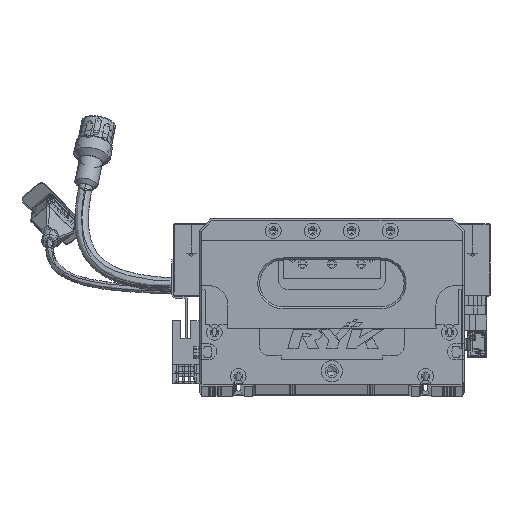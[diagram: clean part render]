
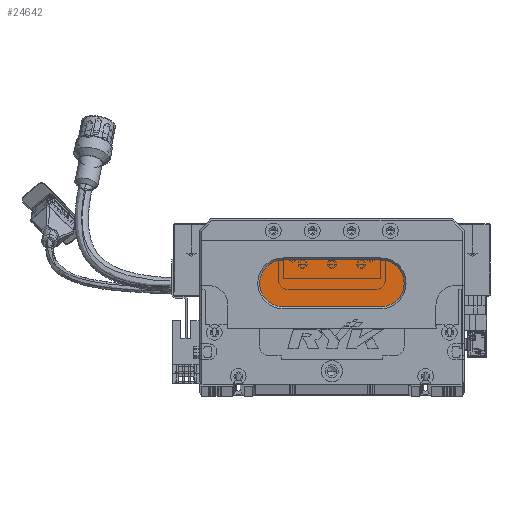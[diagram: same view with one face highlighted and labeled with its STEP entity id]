
A CAD part, top view. The second image highlights one B-rep face of the part: STEP entity #24642.
In plain terms, the highlighted planar face has unit normal (0, 0, 1) as drawn and (0, 0, -1) by its records, which use the part's own axes.
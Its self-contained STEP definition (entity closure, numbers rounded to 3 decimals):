
#1421 = CARTESIAN_POINT ( 'NONE',  ( 93., 40., 13. ) ) ;
#1837 = CARTESIAN_POINT ( 'NONE',  ( 31., 52., 13. ) ) ;
#3142 = LINE ( 'NONE', #85610, #92176 ) ;
#4855 = CIRCLE ( 'NONE', #73517, 12. ) ;
#10345 = FACE_OUTER_BOUND ( 'NONE', #51474, .T. ) ;
#12016 = DIRECTION ( 'NONE',  ( -1., 0., 0. ) ) ;
#13839 = CARTESIAN_POINT ( 'NONE',  ( 43., 40., 13. ) ) ;
#15865 = EDGE_CURVE ( 'NONE', #131547, #62131, #61372, .T. ) ;
#17077 = EDGE_CURVE ( 'NONE', #36952, #46828, #123846, .T. ) ;
#17174 = AXIS2_PLACEMENT_3D ( 'NONE', #55476, #121756, #12016 ) ;
#24642 = ADVANCED_FACE ( 'NONE', ( #10345 ), #118140, .T. ) ;
#31757 = DIRECTION ( 'NONE',  ( 0., 0., -1. ) ) ;
#36952 = VERTEX_POINT ( 'NONE', #1837 ) ;
#44995 = CARTESIAN_POINT ( 'NONE',  ( 93., 40., 13. ) ) ;
#46828 = VERTEX_POINT ( 'NONE', #101733 ) ;
#51474 = EDGE_LOOP ( 'NONE', ( #111366, #144117, #122593, #136463, #88305 ) ) ;
#55476 = CARTESIAN_POINT ( 'NONE',  ( 43., 52., 13. ) ) ;
#60706 = DIRECTION ( 'NONE',  ( -1., 0., 0. ) ) ;
#61372 = LINE ( 'NONE', #1421, #110155 ) ;
#62131 = VERTEX_POINT ( 'NONE', #13839 ) ;
#67337 = EDGE_CURVE ( 'NONE', #62131, #36952, #87413, .T. ) ;
#73517 = AXIS2_PLACEMENT_3D ( 'NONE', #98595, #31757, #99060 ) ;
#73642 = EDGE_CURVE ( 'NONE', #113667, #131547, #4855, .T. ) ;
#74447 = DIRECTION ( 'NONE',  ( 1., 0., 0. ) ) ;
#77400 = DIRECTION ( 'NONE',  ( -1., 0., 0. ) ) ;
#85610 = CARTESIAN_POINT ( 'NONE',  ( 93., 64., 13. ) ) ;
#87413 = CIRCLE ( 'NONE', #143946, 12. ) ;
#88305 = ORIENTED_EDGE ( 'NONE', *, *, #112716, .T. ) ;
#92176 = VECTOR ( 'NONE', #74447, 1000. ) ;
#98595 = CARTESIAN_POINT ( 'NONE',  ( 93., 52., 13. ) ) ;
#99060 = DIRECTION ( 'NONE',  ( -1., 0., 0. ) ) ;
#101733 = CARTESIAN_POINT ( 'NONE',  ( 43., 64., 13. ) ) ;
#103919 = AXIS2_PLACEMENT_3D ( 'NONE', #139154, #105496, #60706 ) ;
#105496 = DIRECTION ( 'NONE',  ( 0., 0., -1. ) ) ;
#110155 = VECTOR ( 'NONE', #124312, 1000. ) ;
#111366 = ORIENTED_EDGE ( 'NONE', *, *, #73642, .T. ) ;
#112716 = EDGE_CURVE ( 'NONE', #46828, #113667, #3142, .T. ) ;
#113667 = VERTEX_POINT ( 'NONE', #132624 ) ;
#118140 = PLANE ( 'NONE',  #103919 ) ;
#121187 = DIRECTION ( 'NONE',  ( 0., 0., -1. ) ) ;
#121756 = DIRECTION ( 'NONE',  ( 0., 0., -1. ) ) ;
#122593 = ORIENTED_EDGE ( 'NONE', *, *, #67337, .T. ) ;
#123846 = CIRCLE ( 'NONE', #17174, 12. ) ;
#124312 = DIRECTION ( 'NONE',  ( -1., 0., 0. ) ) ;
#131547 = VERTEX_POINT ( 'NONE', #44995 ) ;
#132624 = CARTESIAN_POINT ( 'NONE',  ( 93., 64., 13. ) ) ;
#136463 = ORIENTED_EDGE ( 'NONE', *, *, #17077, .T. ) ;
#139154 = CARTESIAN_POINT ( 'NONE',  ( 93., 52., 13. ) ) ;
#143946 = AXIS2_PLACEMENT_3D ( 'NONE', #144132, #121187, #77400 ) ;
#144117 = ORIENTED_EDGE ( 'NONE', *, *, #15865, .T. ) ;
#144132 = CARTESIAN_POINT ( 'NONE',  ( 43., 52., 13. ) ) ;
